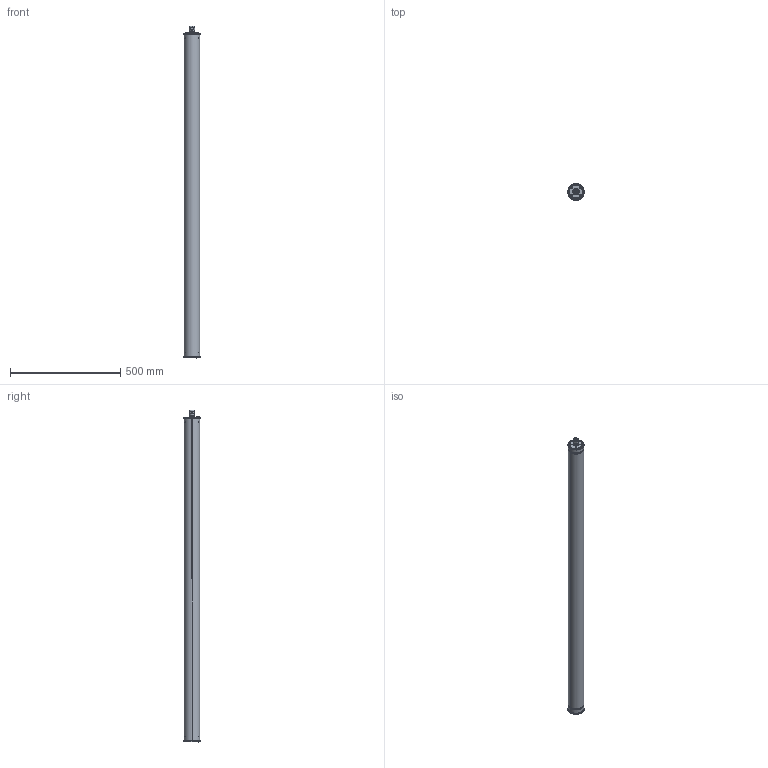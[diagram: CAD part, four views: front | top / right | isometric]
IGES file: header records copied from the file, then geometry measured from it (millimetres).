
Start section: SolidWorks IGES file using analytic representation for surfaces
Global section: file name: C:\Users\JoãoSantos\Desktop\02_3D.2D\01_2020\02_Linear\02_Tubo\02_Tubo_70\Normal\TUBO_70_1472.IGS; native system: SolidWorks 2020; preprocessor: SolidWorks 2020; author: JoãoSantos; date: 201020.180254; units: millimetre
Bounding box: 73 x 73 x 1504.7 mm (x, y, z)
Surface area: 717388.8 mm2 (no closed solid volume)
Topology: 0 solids, 0 shells, 1608 faces, 15018 edges, 14852 vertices
Faces by surface type: revolution 888, bspline 720
